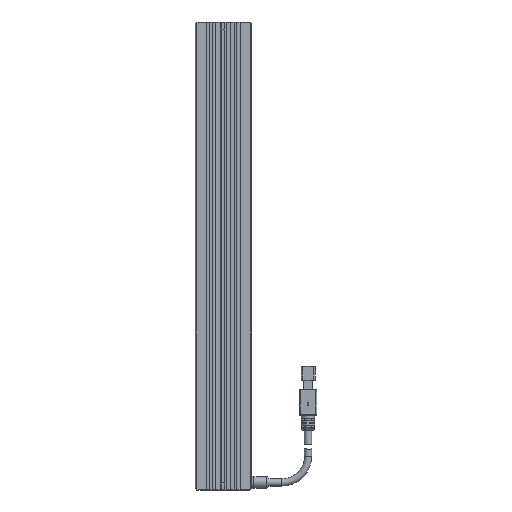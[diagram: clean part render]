
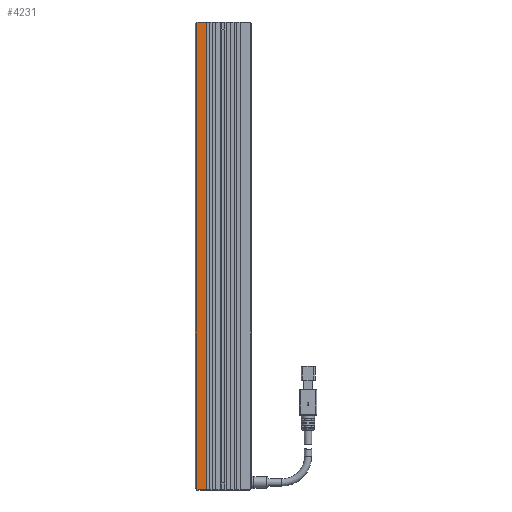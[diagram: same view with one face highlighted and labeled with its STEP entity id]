
A CAD part, top view. The second image highlights one B-rep face of the part: STEP entity #4231.
In plain terms, the highlighted planar face has unit normal (0, 0, 1).
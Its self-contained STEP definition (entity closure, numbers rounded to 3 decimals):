
#1380 = LINE ( 'NONE', #10790, #9753 ) ;
#1502 = ORIENTED_EDGE ( 'NONE', *, *, #14662, .T. ) ;
#1605 = CARTESIAN_POINT ( 'NONE',  ( -15., -134., 12.5 ) ) ;
#1693 = VERTEX_POINT ( 'NONE', #16521 ) ;
#1991 = LINE ( 'NONE', #2199, #8849 ) ;
#2199 = CARTESIAN_POINT ( 'NONE',  ( -15., 134., 12.5 ) ) ;
#2231 = VERTEX_POINT ( 'NONE', #8878 ) ;
#2610 = FACE_OUTER_BOUND ( 'NONE', #4203, .T. ) ;
#2740 = CARTESIAN_POINT ( 'NONE',  ( -15.5, 134., 12.5 ) ) ;
#3282 = EDGE_CURVE ( 'NONE', #1693, #15088, #9043, .T. ) ;
#3519 = CARTESIAN_POINT ( 'NONE',  ( -9.7, 134., 12.5 ) ) ;
#3700 = LINE ( 'NONE', #8126, #13725 ) ;
#3724 = DIRECTION ( 'NONE',  ( 0., -1., 0. ) ) ;
#4185 = DIRECTION ( 'NONE',  ( 1., 0., 0. ) ) ;
#4203 = EDGE_LOOP ( 'NONE', ( #16064, #10624, #1502, #9364, #14260, #16252 ) ) ;
#4231 = ADVANCED_FACE ( 'NONE', ( #2610 ), #14891, .F. ) ;
#4549 = CARTESIAN_POINT ( 'NONE',  ( -16., -133., 12.5 ) ) ;
#5571 = DIRECTION ( 'NONE',  ( -1., 0., 0. ) ) ;
#5702 = VERTEX_POINT ( 'NONE', #15949 ) ;
#5827 = VERTEX_POINT ( 'NONE', #14642 ) ;
#6218 = EDGE_CURVE ( 'NONE', #15088, #2231, #16987, .T. ) ;
#6390 = DIRECTION ( 'NONE',  ( -0.707, -0.707, 0. ) ) ;
#6499 = CARTESIAN_POINT ( 'NONE',  ( -9.7, 134., 12.5 ) ) ;
#8125 = CARTESIAN_POINT ( 'NONE',  ( -15.5, 134., 12.5 ) ) ;
#8126 = CARTESIAN_POINT ( 'NONE',  ( -15.5, -134., 12.5 ) ) ;
#8461 = EDGE_CURVE ( 'NONE', #17501, #2231, #3700, .T. ) ;
#8515 = AXIS2_PLACEMENT_3D ( 'NONE', #8125, #17584, #5571 ) ;
#8849 = VECTOR ( 'NONE', #6390, 1000. ) ;
#8878 = CARTESIAN_POINT ( 'NONE',  ( -9.7, -134., 12.5 ) ) ;
#8897 = VECTOR ( 'NONE', #9941, 1000. ) ;
#9043 = LINE ( 'NONE', #2740, #12873 ) ;
#9364 = ORIENTED_EDGE ( 'NONE', *, *, #14928, .T. ) ;
#9715 = DIRECTION ( 'NONE',  ( 1., 0., 0. ) ) ;
#9753 = VECTOR ( 'NONE', #14914, 1000. ) ;
#9941 = DIRECTION ( 'NONE',  ( 0.707, -0.707, 0. ) ) ;
#10624 = ORIENTED_EDGE ( 'NONE', *, *, #10653, .T. ) ;
#10653 = EDGE_CURVE ( 'NONE', #1693, #5827, #1991, .T. ) ;
#10790 = CARTESIAN_POINT ( 'NONE',  ( -15.5, 134., 12.5 ) ) ;
#12521 = LINE ( 'NONE', #4549, #8897 ) ;
#12753 = VECTOR ( 'NONE', #3724, 1000. ) ;
#12873 = VECTOR ( 'NONE', #9715, 1000. ) ;
#13725 = VECTOR ( 'NONE', #4185, 1000. ) ;
#14260 = ORIENTED_EDGE ( 'NONE', *, *, #8461, .T. ) ;
#14642 = CARTESIAN_POINT ( 'NONE',  ( -15.5, 133.5, 12.5 ) ) ;
#14662 = EDGE_CURVE ( 'NONE', #5827, #5702, #1380, .T. ) ;
#14891 = PLANE ( 'NONE',  #8515 ) ;
#14914 = DIRECTION ( 'NONE',  ( 0., -1., 0. ) ) ;
#14928 = EDGE_CURVE ( 'NONE', #5702, #17501, #12521, .T. ) ;
#15088 = VERTEX_POINT ( 'NONE', #3519 ) ;
#15949 = CARTESIAN_POINT ( 'NONE',  ( -15.5, -133.5, 12.5 ) ) ;
#16064 = ORIENTED_EDGE ( 'NONE', *, *, #3282, .F. ) ;
#16252 = ORIENTED_EDGE ( 'NONE', *, *, #6218, .F. ) ;
#16521 = CARTESIAN_POINT ( 'NONE',  ( -15., 134., 12.5 ) ) ;
#16987 = LINE ( 'NONE', #6499, #12753 ) ;
#17501 = VERTEX_POINT ( 'NONE', #1605 ) ;
#17584 = DIRECTION ( 'NONE',  ( 0., 0., -1. ) ) ;
